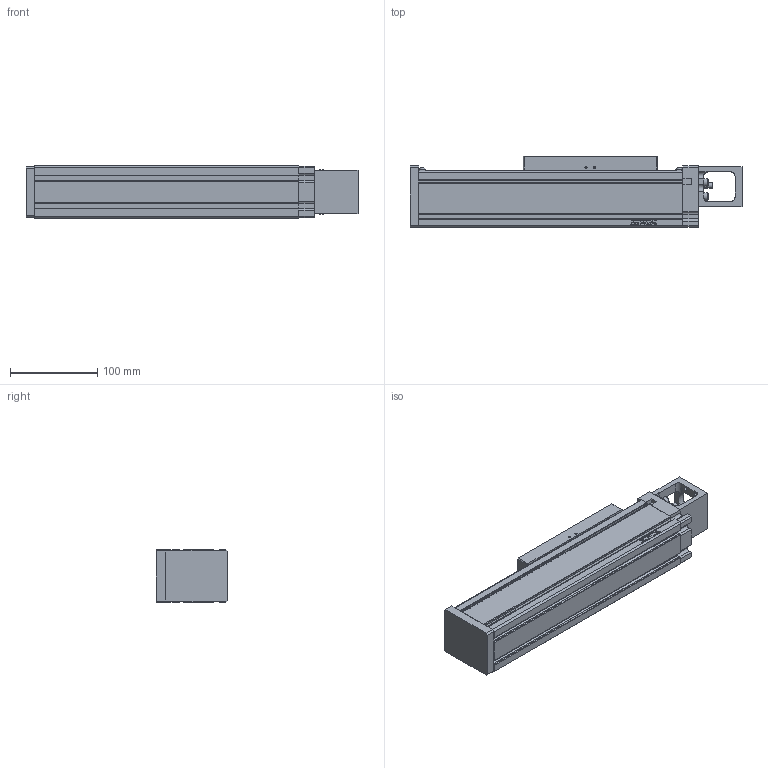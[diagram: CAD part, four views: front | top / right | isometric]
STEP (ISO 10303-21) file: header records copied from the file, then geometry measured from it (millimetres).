
FILE_DESCRIPTION(/* description */ (''),/* implementation_level */ '2;1');
FILE_NAME(/* name */ 'D:\混合母檔20191031\混和母檔\混和母檔\bin\Debug\Download\3D\KU60-10C-100AF0\KU60-10C-100AF0.stp',/* time_stamp */ '2019-11-04T16:34:24+08:00',/* author */ ('user'),/* organization */ (''),/* preprocessor_version */ 'ST-DEVELOPER v16.13',/* originating_system */ 'Autodesk Inventor 2018',/* authorisation */ '');
FILE_SCHEMA (('AUTOMOTIVE_DESIGN { 1 0 10303 214 3 1 1 }'));
Length unit declared in the file: millimetre
Products named in the file (3): KU60-10C-100AF0; KU060-F0-BP; KU60-SL
Assembly tree (2 placements, depth 2):
  KU60-10C-100AF0
    KU060-F0-BP
    KU60-SL
Bounding box: 381 x 82 x 60 mm (x, y, z)
Volume: 1406122 mm3; surface area: 163673 mm2
Topology: 2 solids, 14 shells, 756 faces, 2087 edges, 1370 vertices
Faces by surface type: plane 448, bspline 140, cylinder 133, cone 23, torus 12
Full cylindrical faces by diameter (mm): 2.459 x8, 3 x4, 3.242 x16, 3.5 x4, 4.5 x4, 5 x4, 5.5 x4, 5.7 x4, 6 x1, 8 x1, 8.5 x4, 30 x1, 35 x1
Entity records: 24568 total; most frequent: CARTESIAN_POINT 6539, ORIENTED_EDGE 3902, DIRECTION 3204, EDGE_CURVE 1951, VERTEX_POINT 1321, LINE 1288, VECTOR 1288, AXIS2_PLACEMENT_3D 958
